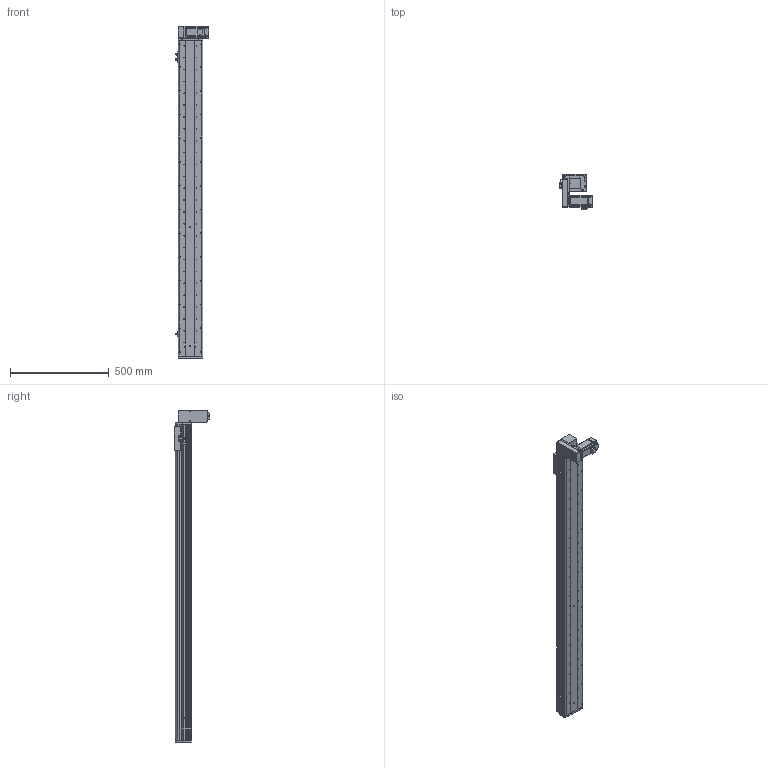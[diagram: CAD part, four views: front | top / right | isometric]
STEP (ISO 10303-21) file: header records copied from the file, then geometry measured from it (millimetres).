
FILE_DESCRIPTION (( 'STEP AP214' ), '1' );
FILE_NAME ('KSD125B-S1400-MRD-CM.STEP', '2017-10-21T06:36:02', ( '微软用户' ), ( '微软中国' ), 'SwSTEP 2.0', 'SolidWorks 2014', '' );
FILE_SCHEMA (( 'AUTOMOTIVE_DESIGN' ));
Length unit declared in the file: millimetre
Products named in the file (17): 悵誘欶奻狟殏; HTPA30S3M150_A_H6_a佪裝蚚; HTPA30S3M150_A_H6_a萇儂蚚; 100宽马达安装板连板上下折丝杆同步带; KSD125模组1400行程同步带-防尘盖; 125模组1400行程同步带-底板; MHMD042G1CA_2_03; KSD125模组同步带-防撞垫2; 覜茼え68遵圉猾敕; U倰嫖萇假蚾璃; U倰嫖萇EEㄜSX672; KSD125模组同步带-防撞垫1; 100宽马达安装板同步带右; 前端板-125宽模组同步带; 125模组同步带-尾端板1; KSD125模组同步带-滑动座1; KSD125B-S1400-MRD-CM
Assembly tree (20 placements, depth 2):
  KSD125B-S1400-MRD-CM
    KSD125模组同步带-滑动座1
    125模组同步带-尾端板1
    前端板-125宽模组同步带
    100宽马达安装板同步带右
    KSD125模组同步带-防撞垫1
    U倰嫖萇EEㄜSX672  x3
    U倰嫖萇假蚾璃  x3
    覜茼え68遵圉猾敕
    KSD125模组同步带-防撞垫2
    MHMD042G1CA_2_03
    125模组1400行程同步带-底板
    KSD125模组1400行程同步带-防尘盖
    100宽马达安装板连板上下折丝杆同步带
    HTPA30S3M150_A_H6_a萇儂蚚
    HTPA30S3M150_A_H6_a佪裝蚚
    悵誘欶奻狟殏
Bounding box: 168.7 x 179.5 x 1677 mm (x, y, z)
Volume: 4991788.5 mm3; surface area: 1658087.1 mm2
Topology: 19 solids, 22 shells, 2379 faces, 6901 edges, 4562 vertices
Faces by surface type: cylinder 1516, plane 736, cone 105, bspline 22
Entity records: 85151 total; most frequent: CARTESIAN_POINT 16767, DIRECTION 13226, ORIENTED_EDGE 12322, EDGE_CURVE 6239, AXIS2_PLACEMENT_3D 5133, VERTEX_POINT 4154, CIRCLE 2972, LINE 2960
